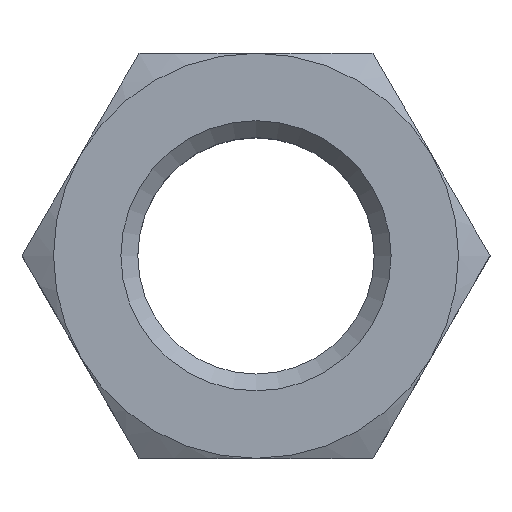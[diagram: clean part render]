
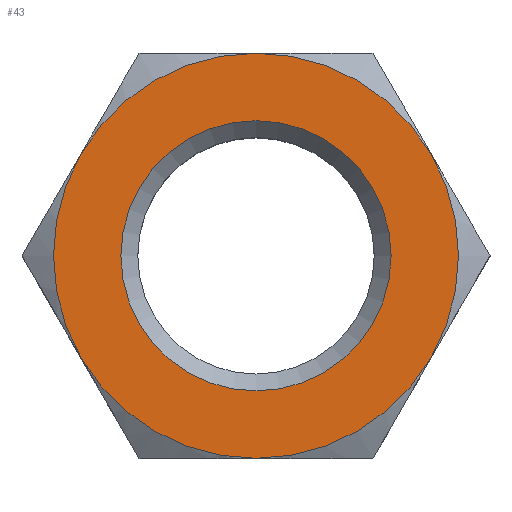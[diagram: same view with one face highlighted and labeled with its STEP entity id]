
A CAD part, top view. The second image highlights one B-rep face of the part: STEP entity #43.
In plain terms, the highlighted planar face has unit normal (0, 0, 1).
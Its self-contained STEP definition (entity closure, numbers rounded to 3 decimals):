
#43 = ADVANCED_FACE( '', ( #90, #91 ), #92, .T. );
#90 = FACE_BOUND( '', #143, .T. );
#91 = FACE_OUTER_BOUND( '', #144, .T. );
#92 = PLANE( '', #145 );
#143 = EDGE_LOOP( '', ( #207 ) );
#144 = EDGE_LOOP( '', ( #208 ) );
#145 = AXIS2_PLACEMENT_3D( '', #209, #210, #211 );
#207 = ORIENTED_EDGE( '', *, *, #295, .T. );
#208 = ORIENTED_EDGE( '', *, *, #285, .F. );
#209 = CARTESIAN_POINT( '', ( -8.66, -15., 18. ) );
#210 = DIRECTION( '', ( 0., 0., 1. ) );
#211 = DIRECTION( '', ( 1., 0., 0. ) );
#285 = EDGE_CURVE( '', #326, #326, #327, .T. );
#295 = EDGE_CURVE( '', #342, #342, #343, .F. );
#326 = VERTEX_POINT( '', #409 );
#327 = CIRCLE( '', #410, 14.99 );
#342 = VERTEX_POINT( '', #494 );
#343 = CIRCLE( '', #495, 10. );
#409 = CARTESIAN_POINT( '', ( -14.99, 0., 18. ) );
#410 = AXIS2_PLACEMENT_3D( '', #574, #575, #576 );
#494 = CARTESIAN_POINT( '', ( 10., 0., 18. ) );
#495 = AXIS2_PLACEMENT_3D( '', #578, #579, #580 );
#574 = CARTESIAN_POINT( '', ( 0., 0., 18. ) );
#575 = DIRECTION( '', ( 0., 0., -1. ) );
#576 = DIRECTION( '', ( -1., 0., 0. ) );
#578 = CARTESIAN_POINT( '', ( 0., 0., 18. ) );
#579 = DIRECTION( '', ( 0., 0., 1. ) );
#580 = DIRECTION( '', ( 1., 0., 0. ) );
